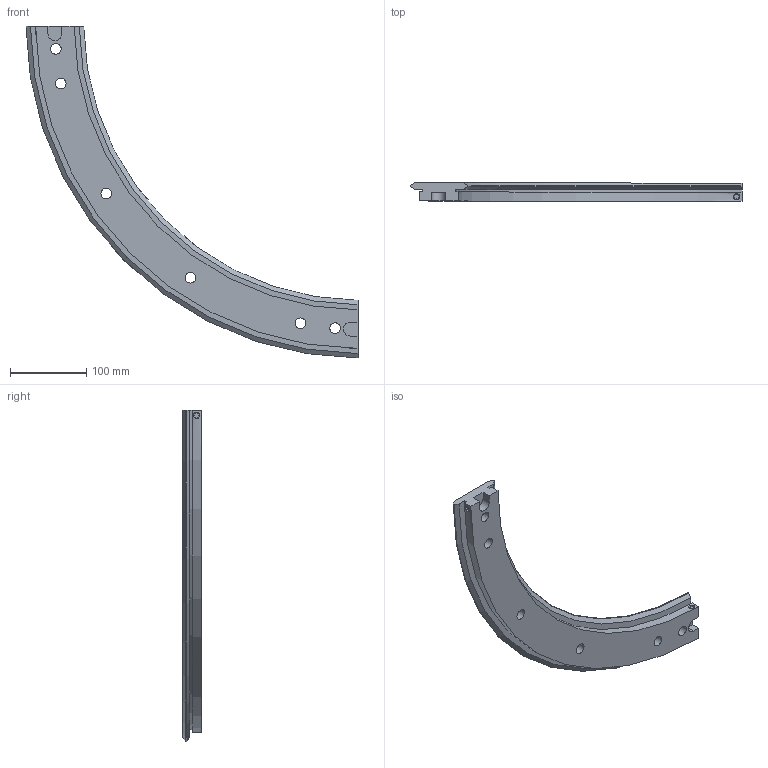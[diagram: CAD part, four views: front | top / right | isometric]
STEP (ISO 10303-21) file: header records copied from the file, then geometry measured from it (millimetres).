
FILE_DESCRIPTION( ( 'STEP AP203' ), '1' );
FILE_NAME( 'p:/temp/worker_29/temp/exporttempdir_2736_426_bsq25/format_0/TR76 799 R90.stp', '2021-09-17T07:41:17', ( 'License CC BY-ND 4.0' ), ( 'CADENAS' ), ' ', 'PARTsolutions', ' ' );
FILE_SCHEMA( ( 'CONFIG_CONTROL_DESIGN' ) );
Length unit declared in the file: millimetre
Products named in the file (1): _TR76 799 R90
Bounding box: 434.8 x 24 x 434.8 mm (x, y, z)
Volume: 808903.9 mm3; surface area: 135935.3 mm2
Topology: 1 solids, 1 shells, 80 faces, 194 edges, 130 vertices
Faces by surface type: plane 52, cylinder 22, cone 4, torus 2
Full cylindrical faces by diameter (mm): 8 x4, 14 x6, 20 x6
Entity records: 2600 total; most frequent: CARTESIAN_POINT 705, DIRECTION 370, ORIENTED_EDGE 352, EDGE_CURVE 176, AXIS2_PLACEMENT_3D 129, VERTEX_POINT 128, EDGE_LOOP 122, LINE 112
